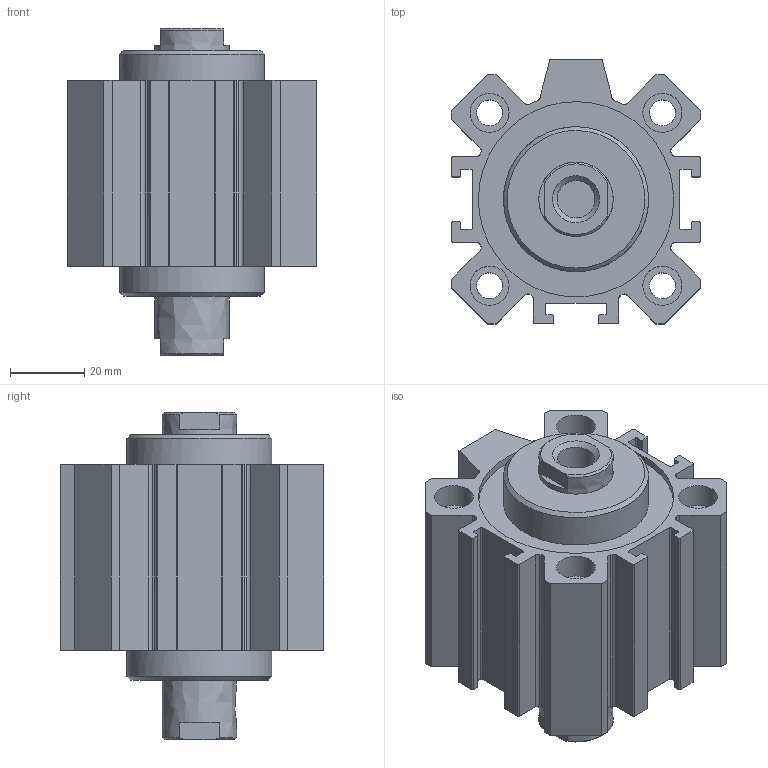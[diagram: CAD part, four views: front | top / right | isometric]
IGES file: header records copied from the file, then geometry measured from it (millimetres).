
Global section: file name: 1514_50_0010; native system: Autodesk Inventor 2014; preprocessor: unknown; author: A. Manieri; date: 20160824.134135; units: millimetre
Bounding box: 67 x 71 x 88 mm (x, y, z)
Volume: 175982.8 mm3; surface area: 55566.7 mm2
Topology: 2 solids, 2 shells, 178 faces, 482 edges, 328 vertices
Faces by surface type: bspline 178
